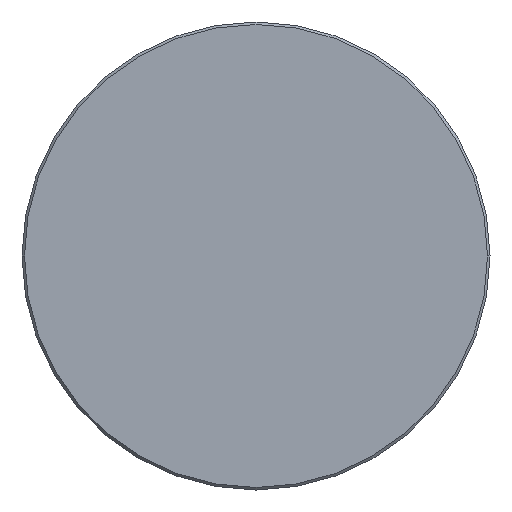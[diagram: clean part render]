
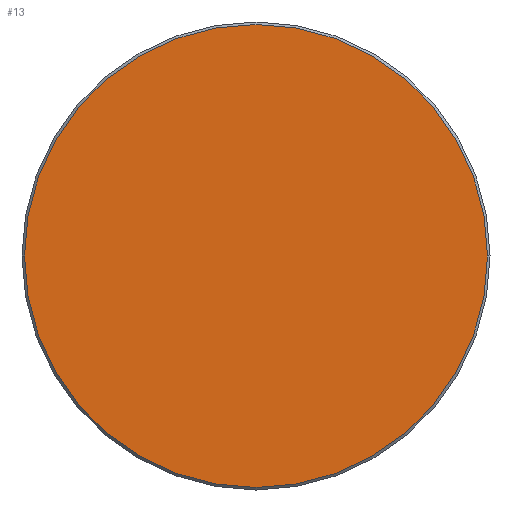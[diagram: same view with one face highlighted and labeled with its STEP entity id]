
A CAD part, left-side view. The second image highlights one B-rep face of the part: STEP entity #13.
In plain terms, the highlighted planar face has unit normal (-1, 0, 0).
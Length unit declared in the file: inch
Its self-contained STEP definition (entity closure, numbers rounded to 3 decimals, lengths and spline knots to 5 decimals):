
#13 = ADVANCED_FACE ( 'NONE', ( #116 ), #271, .T. ) ;
#21 = AXIS2_PLACEMENT_3D ( 'NONE', #76, #222, #55 ) ;
#55 = DIRECTION ( 'NONE',  ( 0., -1., 0. ) ) ;
#61 = ORIENTED_EDGE ( 'NONE', *, *, #318, .T. ) ;
#76 = CARTESIAN_POINT ( 'NONE',  ( 0., 0., 0. ) ) ;
#80 = CARTESIAN_POINT ( 'NONE',  ( 0., 0., 0. ) ) ;
#91 = AXIS2_PLACEMENT_3D ( 'NONE', #209, #99, #330 ) ;
#95 = EDGE_LOOP ( 'NONE', ( #291, #61 ) ) ;
#99 = DIRECTION ( 'NONE',  ( -1., 0., 0. ) ) ;
#114 = DIRECTION ( 'NONE',  ( 0., -1., 0. ) ) ;
#116 = FACE_OUTER_BOUND ( 'NONE', #95, .T. ) ;
#173 = VERTEX_POINT ( 'NONE', #334 ) ;
#206 = EDGE_CURVE ( 'NONE', #254, #173, #276, .T. ) ;
#209 = CARTESIAN_POINT ( 'NONE',  ( 0., 0., 0. ) ) ;
#222 = DIRECTION ( 'NONE',  ( -1., 0., 0. ) ) ;
#254 = VERTEX_POINT ( 'NONE', #273 ) ;
#271 = PLANE ( 'NONE',  #91 ) ;
#273 = CARTESIAN_POINT ( 'NONE',  ( 0., 0.371, 0. ) ) ;
#276 = CIRCLE ( 'NONE', #21, 0.371 ) ;
#291 = ORIENTED_EDGE ( 'NONE', *, *, #206, .T. ) ;
#306 = CIRCLE ( 'NONE', #329, 0.371 ) ;
#318 = EDGE_CURVE ( 'NONE', #173, #254, #306, .T. ) ;
#329 = AXIS2_PLACEMENT_3D ( 'NONE', #80, #368, #114 ) ;
#330 = DIRECTION ( 'NONE',  ( 0., -1., 0. ) ) ;
#334 = CARTESIAN_POINT ( 'NONE',  ( 0., -0.371, 0. ) ) ;
#368 = DIRECTION ( 'NONE',  ( -1., 0., 0. ) ) ;
